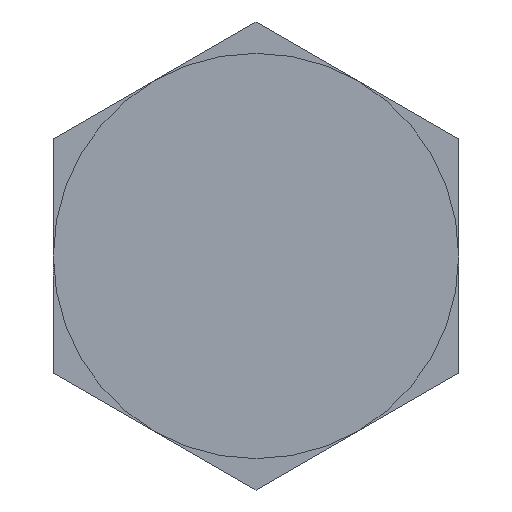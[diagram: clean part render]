
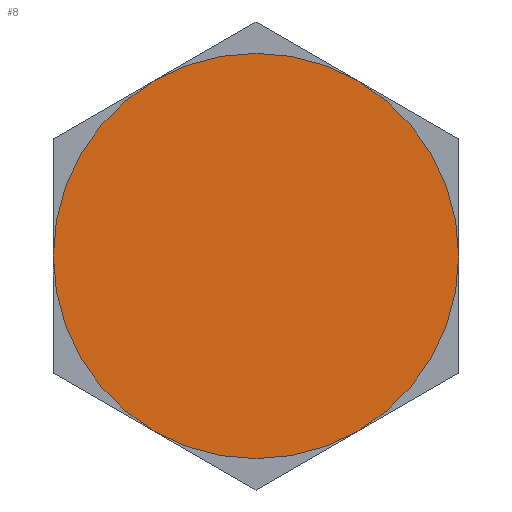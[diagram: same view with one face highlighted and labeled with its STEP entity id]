
A CAD part, left-side view. The second image highlights one B-rep face of the part: STEP entity #8.
In plain terms, the highlighted planar face has unit normal (-1, 0, 0).
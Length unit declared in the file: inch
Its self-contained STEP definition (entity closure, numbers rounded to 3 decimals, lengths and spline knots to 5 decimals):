
#8 = ADVANCED_FACE ( 'NONE', ( #149 ), #513, .T. ) ;
#38 = ORIENTED_EDGE ( 'NONE', *, *, #278, .F. ) ;
#80 = ORIENTED_EDGE ( 'NONE', *, *, #264, .F. ) ;
#128 = EDGE_LOOP ( 'NONE', ( #80, #38 ) ) ;
#149 = FACE_OUTER_BOUND ( 'NONE', #128, .T. ) ;
#167 = CIRCLE ( 'NONE', #303, 0.625 ) ;
#193 = VERTEX_POINT ( 'NONE', #199 ) ;
#195 = VERTEX_POINT ( 'NONE', #506 ) ;
#199 = CARTESIAN_POINT ( 'NONE',  ( -4.792, 0., -0.625 ) ) ;
#204 = DIRECTION ( 'NONE',  ( 0., 0., 1. ) ) ;
#206 = DIRECTION ( 'NONE',  ( -1., 0., 0. ) ) ;
#213 = CARTESIAN_POINT ( 'NONE',  ( -4.792, 0.625, 0. ) ) ;
#264 = EDGE_CURVE ( 'NONE', #193, #195, #167, .T. ) ;
#278 = EDGE_CURVE ( 'NONE', #195, #193, #389, .T. ) ;
#301 = AXIS2_PLACEMENT_3D ( 'NONE', #567, #568, #569 ) ;
#303 = AXIS2_PLACEMENT_3D ( 'NONE', #484, #485, #486 ) ;
#321 = AXIS2_PLACEMENT_3D ( 'NONE', #213, #206, #204 ) ;
#389 = CIRCLE ( 'NONE', #301, 0.625 ) ;
#484 = CARTESIAN_POINT ( 'NONE',  ( -4.792, 0., 0. ) ) ;
#485 = DIRECTION ( 'NONE',  ( 1., 0., 0. ) ) ;
#486 = DIRECTION ( 'NONE',  ( 0., 0., -1. ) ) ;
#506 = CARTESIAN_POINT ( 'NONE',  ( -4.792, 0., 0.625 ) ) ;
#513 = PLANE ( 'NONE',  #321 ) ;
#567 = CARTESIAN_POINT ( 'NONE',  ( -4.792, 0., 0. ) ) ;
#568 = DIRECTION ( 'NONE',  ( 1., 0., 0. ) ) ;
#569 = DIRECTION ( 'NONE',  ( 0., 0., -1. ) ) ;
